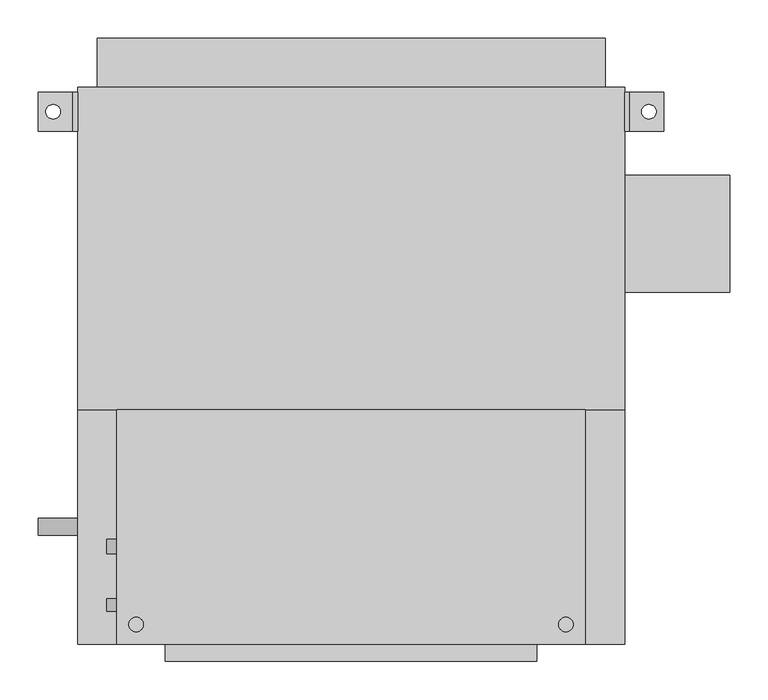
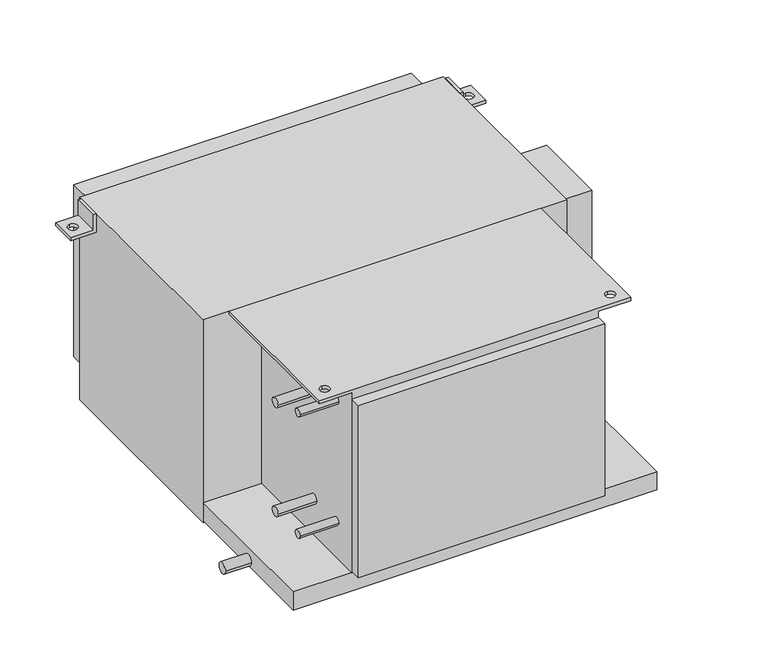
"""IFC4 building model written with IfcOpenShell, lengths in millimetres: proxy geometry, Concealed_High_Capacity_Horizontal_Fan_Coil_Unit_With_Plenum_-_42DCA_-_CARRIER_-_4-Pipe_LH_2022 : Size 08 - 277v/60Hz/1Ph - 6/2 Coil."""

from ifc_helpers import new_model, si_unit, point, frame, frame_2d, origin, place, context, project, spatial, polyline, circle_curve, trimmed, segment, composite_curve, outline, extrude, source, transform, mapped, element, save
from ifc_brep_helpers import plane_surface, revolved_surface, advanced_brep


def mechanical_equipment_8a5c4ff3(model_context):
    return source(origin(), model_context, "Body", "SolidModel", [
        advanced_brep(
        [(-152.4, -85.725, 0.0), (-152.4, -390.525, 0.0), (457.2, -390.525, 0.0), (457.2, -85.725, 0.0), (-127.0, -374.65, 0.0), (-127.0, -355.6, 0.0), (431.8, -374.65, 0.0), (431.8, -355.6, 0.0), (393.7, -85.725, -377.825), (393.7, -390.525, -377.825), (-88.9, -390.525, -377.825), (-88.9, -85.725, -377.825), (-88.9, -85.725, -6.35), (-152.4, -85.725, -6.35), (457.2, -85.725, -6.35), (393.7, -85.725, -6.35), (-88.9, -390.525, -6.35), (393.7, -390.525, -6.35), (457.2, -390.525, -6.35), (-152.4, -390.525, -6.35), (-127.0, -355.6, -6.35), (-127.0, -374.65, -6.35), (431.8, -355.6, -6.35), (431.8, -374.65, -6.35)],
        [
            (0, 1),
            (1, 2),
            (2, 3),
            (3, 0),
            (4, 5, circle_curve(frame((-127.0, -365.125, 0.0), z_axis=(0.0, 0.0, -1.0), x_axis=(0.0, 1.0, 0.0)), 9.525)),
            (5, 4, circle_curve(frame((-127.0, -365.125, 0.0), z_axis=(0.0, 0.0, -1.0), x_axis=(0.0, 1.0, 0.0)), 9.525)),
            (6, 7, circle_curve(frame((431.8, -365.125, 0.0), z_axis=(0.0, 0.0, -1.0), x_axis=(0.0, 1.0, 0.0)), 9.525)),
            (7, 6, circle_curve(frame((431.8, -365.125, 0.0), z_axis=(0.0, 0.0, -1.0), x_axis=(0.0, 1.0, 0.0)), 9.525)),
            (8, 9),
            (9, 10),
            (10, 11),
            (11, 8),
            (11, 12),
            (12, 13),
            (13, 0),
            (3, 14),
            (14, 15),
            (15, 8),
            (10, 16),
            (16, 12),
            (9, 17),
            (17, 18),
            (18, 2),
            (1, 19),
            (19, 16),
            (15, 17),
            (19, 13),
            (20, 21, circle_curve(frame((-127.0, -365.125, -6.35), z_axis=(0.0, 0.0, 1.0), x_axis=(0.0, 1.0, 0.0)), 9.525)),
            (21, 20, circle_curve(frame((-127.0, -365.125, -6.35), z_axis=(0.0, 0.0, 1.0), x_axis=(0.0, 1.0, 0.0)), 9.525)),
            (14, 18),
            (22, 23, circle_curve(frame((431.8, -365.125, -6.35), z_axis=(0.0, 0.0, 1.0), x_axis=(0.0, 1.0, 0.0)), 9.525)),
            (23, 22, circle_curve(frame((431.8, -365.125, -6.35), z_axis=(0.0, 0.0, 1.0), x_axis=(0.0, 1.0, 0.0)), 9.525)),
            (4, 21),
            (20, 5),
            (6, 23),
            (22, 7),
        ],
        [
            plane_surface(frame((-88.9, -85.725, 0.0), z_axis=(0.0, 0.0, 1.0), x_axis=(-1.0, 0.0, 0.0))),
            plane_surface(frame((-88.9, -85.725, -377.825), z_axis=(0.0, 0.0, -1.0), x_axis=(1.0, 0.0, 0.0))),
            plane_surface(frame((393.7, -85.725, 0.0), z_axis=(0.0, 1.0, 0.0), x_axis=(0.0, 0.0, -1.0))),
            plane_surface(frame((-88.9, -85.725, 0.0), z_axis=(-1.0, 0.0, 0.0), x_axis=(0.0, 0.0, -1.0))),
            plane_surface(frame((-88.9, -390.525, 0.0), z_axis=(0.0, -1.0, 0.0), x_axis=(0.0, 0.0, -1.0))),
            plane_surface(frame((393.7, -390.525, 0.0), z_axis=(1.0, 0.0, 0.0), x_axis=(0.0, 0.0, -1.0))),
            plane_surface(frame((-152.4, -85.725, -6.35), z_axis=(0.0, 0.0, -1.0), x_axis=(0.0, 1.0, 0.0))),
            plane_surface(frame((-152.4, -85.725, 0.0), z_axis=(-1.0, 0.0, 0.0), x_axis=(0.0, 0.0, -1.0))),
            plane_surface(frame((457.2, -390.525, 0.0), z_axis=(1.0, 0.0, 0.0), x_axis=(0.0, 0.0, -1.0))),
            revolved_surface(polyline([(-127.0, -355.6, -6.35), (-127.0, -355.6, 0.0)]), (-127.0, -365.125, 0.0), (0.0, 0.0, -1.0)),
            revolved_surface(polyline([(431.8, -355.6, -6.35), (431.8, -355.6, 0.0)]), (431.8, -365.125, 0.0), (0.0, 0.0, -1.0)),
        ],
        [
            (0, [[1, 2, 3, 4], [5, 6], [7, 8]]),
            (1, [[9, 10, 11, 12]]),
            (2, [[-12, 13, 14, 15, -4, 16, 17, 18]]),
            (3, [[-11, 19, 20, -13]]),
            (4, [[-10, 21, 22, 23, -2, 24, 25, -19]]),
            (5, [[-9, -18, 26, -21]]),
            (6, [[-14, -20, -25, 27], [28, 29]]),
            (6, [[30, -22, -26, -17], [31, 32]]),
            (7, [[-27, -24, -1, -15]]),
            (8, [[-30, -16, -3, -23]]),
            (9, [[33, -28, 34, -5]]),
            (9, [[-33, -6, -34, -29]]),
            (10, [[35, -31, 36, -7]]),
            (10, [[-35, -8, -36, -32]]),
        ],
    ),
        advanced_brep(
        [(-203.2, 327.025, -38.1), (-254.0, 327.025, -38.1), (-254.0, 327.025, -31.75), (-209.55, 327.025, -31.75), (-209.55, 327.025, 0.0), (-203.2, 327.025, 0.0), (-203.2, 276.225, -38.1), (-203.2, 276.225, 0.0), (-209.55, 276.225, 0.0), (-209.55, 276.225, -31.75), (-254.0, 276.225, -31.75), (-254.0, 276.225, -38.1), (-234.95, 292.1, -38.1), (-234.95, 311.15, -38.1), (-234.95, 311.15, -31.75), (-234.95, 292.1, -31.75)],
        [
            (0, 1),
            (1, 2),
            (2, 3),
            (3, 4),
            (4, 5),
            (5, 0),
            (6, 7),
            (7, 8),
            (8, 9),
            (9, 10),
            (10, 11),
            (11, 6),
            (0, 6),
            (11, 1),
            (12, 13, circle_curve(frame((-234.95, 301.625, -38.1), z_axis=(0.0, 0.0, 1.0), x_axis=(0.0, -1.0, 0.0)), 9.525)),
            (13, 12, circle_curve(frame((-234.95, 301.625, -38.1), z_axis=(0.0, 0.0, 1.0), x_axis=(0.0, -1.0, 0.0)), 9.525)),
            (10, 2),
            (9, 3),
            (14, 15, circle_curve(frame((-234.95, 301.625, -31.75), z_axis=(0.0, 0.0, -1.0), x_axis=(0.0, -1.0, 0.0)), 9.525)),
            (15, 14, circle_curve(frame((-234.95, 301.625, -31.75), z_axis=(0.0, 0.0, -1.0), x_axis=(0.0, -1.0, 0.0)), 9.525)),
            (8, 4),
            (7, 5),
            (14, 13),
            (12, 15),
        ],
        [
            plane_surface(frame((-203.2, 327.025, -38.1), z_axis=(0.0, 1.0, 0.0), x_axis=(-1.0, 0.0, 0.0))),
            plane_surface(frame((-203.2, 276.225, -38.1), z_axis=(0.0, -1.0, 0.0), x_axis=(1.0, 0.0, 0.0))),
            plane_surface(frame((-203.2, 327.025, -38.1), z_axis=(0.0, 0.0, -1.0), x_axis=(0.0, -1.0, 0.0))),
            plane_surface(frame((-254.0, 327.025, -38.1), z_axis=(-1.0, 0.0, 0.0), x_axis=(0.0, -1.0, 0.0))),
            plane_surface(frame((-254.0, 327.025, -31.75), z_axis=(0.0, 0.0, 1.0), x_axis=(0.0, -1.0, 0.0))),
            plane_surface(frame((-209.55, 327.025, -31.75), z_axis=(-1.0, 0.0, 0.0), x_axis=(0.0, -1.0, 0.0))),
            plane_surface(frame((-209.55, 327.025, 0.0), z_axis=(0.0, 0.0, 1.0), x_axis=(0.0, -1.0, 0.0))),
            plane_surface(frame((-203.2, 327.025, 0.0), z_axis=(1.0, 0.0, 0.0), x_axis=(0.0, -1.0, 0.0))),
            revolved_surface(polyline([(-234.95, 292.1, -38.1), (-234.95, 292.1, -31.75)]), (-234.95, 301.625, -31.75), (0.0, 0.0, -1.0)),
        ],
        [
            (0, [[1, 2, 3, 4, 5, 6]]),
            (1, [[7, 8, 9, 10, 11, 12]]),
            (2, [[-1, 13, -12, 14], [15, 16]]),
            (3, [[-2, -14, -11, 17]]),
            (4, [[-3, -17, -10, 18], [19, 20]]),
            (5, [[-4, -18, -9, 21]]),
            (6, [[-5, -21, -8, 22]]),
            (7, [[-6, -22, -7, -13]]),
            (8, [[23, -15, 24, -19]]),
            (8, [[-23, -20, -24, -16]]),
        ],
    ),
        advanced_brep(
        [(508.0, 327.025, -38.1), (508.0, 327.025, 0.0), (514.35, 327.025, 0.0), (514.35, 327.025, -31.75), (558.8, 327.025, -31.75), (558.8, 327.025, -38.1), (508.0, 276.225, -38.1), (558.8, 276.225, -38.1), (558.8, 276.225, -31.75), (514.35, 276.225, -31.75), (514.35, 276.225, 0.0), (508.0, 276.225, 0.0), (539.75, 311.15, -31.75), (539.75, 292.1, -31.75), (539.75, 292.1, -38.1), (539.75, 311.15, -38.1)],
        [
            (0, 1),
            (1, 2),
            (2, 3),
            (3, 4),
            (4, 5),
            (5, 0),
            (6, 7),
            (7, 8),
            (8, 9),
            (9, 10),
            (10, 11),
            (11, 6),
            (0, 6),
            (11, 1),
            (10, 2),
            (9, 3),
            (8, 4),
            (12, 13, circle_curve(frame((539.75, 301.625, -31.75), z_axis=(0.0, 0.0, -1.0), x_axis=(0.0, -1.0, 0.0)), 9.525)),
            (13, 12, circle_curve(frame((539.75, 301.625, -31.75), z_axis=(0.0, 0.0, -1.0), x_axis=(0.0, -1.0, 0.0)), 9.525)),
            (7, 5),
            (14, 15, circle_curve(frame((539.75, 301.625, -38.1), z_axis=(0.0, 0.0, 1.0), x_axis=(0.0, -1.0, 0.0)), 9.525)),
            (15, 14, circle_curve(frame((539.75, 301.625, -38.1), z_axis=(0.0, 0.0, 1.0), x_axis=(0.0, -1.0, 0.0)), 9.525)),
            (12, 15),
            (14, 13),
        ],
        [
            plane_surface(frame((-203.2, 327.025, -38.1), z_axis=(0.0, 1.0, 0.0), x_axis=(-1.0, 0.0, 0.0))),
            plane_surface(frame((-203.2, 276.225, -38.1), z_axis=(0.0, -1.0, 0.0), x_axis=(1.0, 0.0, 0.0))),
            plane_surface(frame((508.0, 327.025, -38.1), z_axis=(-1.0, 0.0, 0.0), x_axis=(0.0, -1.0, 0.0))),
            plane_surface(frame((508.0, 327.025, 0.0), z_axis=(0.0, 0.0, 1.0), x_axis=(0.0, -1.0, 0.0))),
            plane_surface(frame((514.35, 327.025, 0.0), z_axis=(1.0, 0.0, 0.0), x_axis=(0.0, -1.0, 0.0))),
            plane_surface(frame((514.35, 327.025, -31.75), z_axis=(0.0, 0.0, 1.0), x_axis=(0.0, -1.0, 0.0))),
            plane_surface(frame((558.8, 327.025, -31.75), z_axis=(1.0, 0.0, 0.0), x_axis=(0.0, -1.0, 0.0))),
            plane_surface(frame((558.8, 327.025, -38.1), z_axis=(0.0, 0.0, -1.0), x_axis=(0.0, -1.0, 0.0))),
            revolved_surface(polyline([(539.75, 292.1, -38.1), (539.75, 292.1, -31.75)]), (539.75, 301.625, -31.75), (0.0, 0.0, -1.0)),
        ],
        [
            (0, [[1, 2, 3, 4, 5, 6]]),
            (1, [[7, 8, 9, 10, 11, 12]]),
            (2, [[-1, 13, -12, 14]]),
            (3, [[-2, -14, -11, 15]]),
            (4, [[-3, -15, -10, 16]]),
            (5, [[-4, -16, -9, 17], [18, 19]]),
            (6, [[-5, -17, -8, 20]]),
            (7, [[-6, -20, -7, -13], [21, 22]]),
            (8, [[23, -21, 24, -18]]),
            (8, [[-23, -19, -24, -22]]),
        ],
    ),
        extrude(outline(polyline([(-177.8, 396.875), (482.6, 396.875), (482.6, 333.375), (-177.8, 333.375), (-177.8, 396.875)])), frame((0.0, 0.0, -377.825), z_axis=(0.0, 0.0, 1.0), x_axis=(1.0, 0.0, 0.0)), (0.0, 0.0, 1.0), 355.6),
        extrude(outline(composite_curve([segment(trimmed(circle_curve(frame_2d((-263.525, -76.2)), 9.525), [point((-273.05, -76.2))], [point((-254.0, -76.2))], False, "CARTESIAN"), True, "CONTINUOUS"), segment(trimmed(circle_curve(frame_2d((-263.525, -76.2)), 9.525), [point((-254.0, -76.2))], [point((-273.05, -76.2))], False, "CARTESIAN"), True, "CONTINUOUS")], self_intersect=False)), frame((-165.1, 0.0, 0.0), z_axis=(1.0, 0.0, 0.0), x_axis=(0.0, 1.0, 0.0)), (0.0, 0.0, 1.0), 76.2),
        extrude(outline(composite_curve([segment(trimmed(circle_curve(frame_2d((-263.525, -301.625)), 9.525), [point((-273.05, -301.625))], [point((-254.0, -301.625))], False, "CARTESIAN"), True, "CONTINUOUS"), segment(trimmed(circle_curve(frame_2d((-263.525, -301.625)), 9.525), [point((-254.0, -301.625))], [point((-273.05, -301.625))], False, "CARTESIAN"), True, "CONTINUOUS")], self_intersect=False)), frame((-165.1, 0.0, 0.0), z_axis=(1.0, 0.0, 0.0), x_axis=(0.0, 1.0, 0.0)), (0.0, 0.0, 1.0), 76.2),
        extrude(outline(composite_curve([segment(trimmed(circle_curve(frame_2d((-339.725, -50.8)), 7.9375), [point((-347.6625, -50.8))], [point((-331.7875, -50.8))], False, "CARTESIAN"), True, "CONTINUOUS"), segment(trimmed(circle_curve(frame_2d((-339.725, -50.8)), 7.9375), [point((-331.7875, -50.8))], [point((-347.6625, -50.8))], False, "CARTESIAN"), True, "CONTINUOUS")], self_intersect=False)), frame((-165.1, 0.0, 0.0), z_axis=(1.0, 0.0, 0.0), x_axis=(0.0, 1.0, 0.0)), (0.0, 0.0, 1.0), 76.2),
        extrude(outline(composite_curve([segment(trimmed(circle_curve(frame_2d((-339.725, -301.625)), 7.9375), [point((-347.6625, -301.625))], [point((-331.7875, -301.625))], False, "CARTESIAN"), True, "CONTINUOUS"), segment(trimmed(circle_curve(frame_2d((-339.725, -301.625)), 7.9375), [point((-331.7875, -301.625))], [point((-347.6625, -301.625))], False, "CARTESIAN"), True, "CONTINUOUS")], self_intersect=False)), frame((-165.1, 0.0, 0.0), z_axis=(1.0, 0.0, 0.0), x_axis=(0.0, 1.0, 0.0)), (0.0, 0.0, 1.0), 76.2),
        extrude(outline(composite_curve([segment(trimmed(circle_curve(frame_2d((-238.125, -403.225)), 11.1125), [point((-249.2375, -403.225))], [point((-227.0125, -403.225))], False, "CARTESIAN"), True, "CONTINUOUS"), segment(trimmed(circle_curve(frame_2d((-238.125, -403.225)), 11.1125), [point((-227.0125, -403.225))], [point((-249.2375, -403.225))], False, "CARTESIAN"), True, "CONTINUOUS")], self_intersect=False)), frame((-254.0, 0.0, 0.0), z_axis=(1.0, 0.0, 0.0), x_axis=(0.0, 1.0, 0.0)), (0.0, 0.0, 1.0), 50.8),
        extrude(outline(polyline([(644.525, 219.075), (644.525, 66.675), (508.0, 66.675), (508.0, 219.075), (644.525, 219.075)])), frame((0.0, 0.0, -273.05), z_axis=(0.0, 0.0, 1.0), x_axis=(1.0, 0.0, 0.0)), (0.0, 0.0, 1.0), 152.4),
        extrude(outline(polyline([(393.7, -412.75), (-88.9, -412.75), (-88.9, -390.525), (393.7, -390.525), (393.7, -412.75)])), frame((0.0, 0.0, -374.65), z_axis=(0.0, 0.0, 1.0), x_axis=(1.0, 0.0, 0.0)), (0.0, 0.0, 1.0), 355.6),
        extrude(outline(polyline([(508.0, -85.725), (-203.2, -85.725), (-203.2, 333.375), (508.0, 333.375), (508.0, -85.725)])), frame((0.0, 0.0, -419.1), z_axis=(0.0, 0.0, 1.0), x_axis=(1.0, 0.0, 0.0)), (0.0, 0.0, 1.0), 419.1),
        extrude(outline(polyline([(508.0, -85.725), (508.0, -390.525), (-203.2, -390.525), (-203.2, -85.725), (508.0, -85.725)])), frame((0.0, 0.0, -415.925), z_axis=(0.0, 0.0, 1.0), x_axis=(1.0, 0.0, 0.0)), (0.0, 0.0, 1.0), 38.1),
    ])


if __name__ == "__main__":
    model = new_model("IFC4")
    model_context = context("Model", 3, world=origin())
    ifc_project = project(units=[si_unit("LENGTHUNIT", "METRE", prefix="MILLI")], contexts=[model_context])
    site = spatial("IfcSite", under=ifc_project)
    building = spatial("IfcBuilding", under=site)
    placement = place(None, origin())
    mechanical_equipment_shape = mechanical_equipment_8a5c4ff3(model_context)
    element("IfcBuildingElementProxy", 1, Name="Concealed_High_Capacity_Horizontal_Fan_Coil_Unit_With_Plenum_-_42DCA_-_CARRIER_-_4-Pipe_LH_2022 : Size 08 - 277v/60Hz/1Ph - 6/2 Coil", ObjectType="Concealed_High_Capacity_Horizontal_Fan_Coil_Unit_With_Plenum_-_42DCA_-_CARRIER_-_4-Pipe_LH_2022 : Size 08 - 277v/60Hz/1Ph - 6/2 Coil", at=placement, inside=building, context=model_context, shape_type="MappedRepresentation", body=[
        mapped(mechanical_equipment_shape, transform((0.0, 0.0, 0.0), x_axis=(1.0, 0.0, 0.0), y_axis=(0.0, 1.0, 0.0), z_axis=(0.0, 0.0, 1.0))),
    ])
    save(model, "model.ifc")
